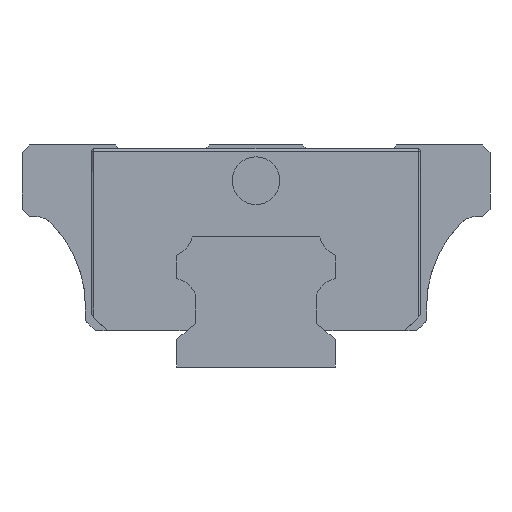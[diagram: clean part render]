
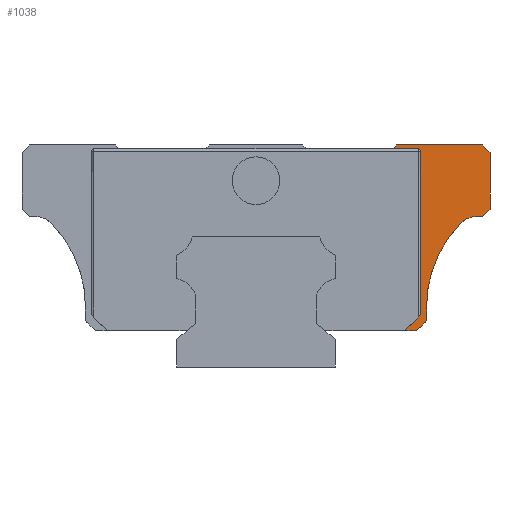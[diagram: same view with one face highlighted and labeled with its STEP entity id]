
A CAD part, left-side view. The second image highlights one B-rep face of the part: STEP entity #1038.
In plain terms, the highlighted planar face has unit normal (-1, 0, 0).
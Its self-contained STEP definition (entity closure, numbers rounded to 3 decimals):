
#24 = VERTEX_POINT ( 'NONE', #2266 ) ;
#58 = VERTEX_POINT ( 'NONE', #6627 ) ;
#95 = VERTEX_POINT ( 'NONE', #4981 ) ;
#149 = VECTOR ( 'NONE', #7197, 1000. ) ;
#159 = VECTOR ( 'NONE', #5225, 1000. ) ;
#279 = EDGE_CURVE ( 'NONE', #95, #2350, #7122, .T. ) ;
#281 = CARTESIAN_POINT ( 'NONE',  ( -13.9, 0., 17.29 ) ) ;
#299 = DIRECTION ( 'NONE',  ( 0., -0.707, 0.707 ) ) ;
#314 = DIRECTION ( 'NONE',  ( 0., -1., 0. ) ) ;
#413 = EDGE_CURVE ( 'NONE', #1445, #2694, #1861, .T. ) ;
#609 = VERTEX_POINT ( 'NONE', #4194 ) ;
#621 = VECTOR ( 'NONE', #4163, 1000. ) ;
#734 = CARTESIAN_POINT ( 'NONE',  ( -13.9, -20.457, 27.5 ) ) ;
#827 = PLANE ( 'NONE',  #5853 ) ;
#928 = DIRECTION ( 'NONE',  ( 0., 0.707, 0.707 ) ) ;
#932 = ORIENTED_EDGE ( 'NONE', *, *, #1115, .T. ) ;
#973 = ORIENTED_EDGE ( 'NONE', *, *, #3090, .T. ) ;
#1038 = ADVANCED_FACE ( 'NONE', ( #1386 ), #827, .T. ) ;
#1115 = EDGE_CURVE ( 'NONE', #2694, #24, #4293, .T. ) ;
#1117 = VERTEX_POINT ( 'NONE', #5280 ) ;
#1300 = ORIENTED_EDGE ( 'NONE', *, *, #4142, .T. ) ;
#1336 = EDGE_CURVE ( 'NONE', #1117, #7265, #3633, .T. ) ;
#1337 = VECTOR ( 'NONE', #3750, 1000. ) ;
#1380 = AXIS2_PLACEMENT_3D ( 'NONE', #4934, #4972, #7204 ) ;
#1386 = FACE_OUTER_BOUND ( 'NONE', #2288, .T. ) ;
#1445 = VERTEX_POINT ( 'NONE', #6404 ) ;
#1587 = DIRECTION ( 'NONE',  ( 0., 1., 0. ) ) ;
#1663 = VERTEX_POINT ( 'NONE', #2740 ) ;
#1679 = ORIENTED_EDGE ( 'NONE', *, *, #3875, .T. ) ;
#1712 = VECTOR ( 'NONE', #6540, 1000. ) ;
#1754 = DIRECTION ( 'NONE',  ( 1., 0., 0. ) ) ;
#1861 = CIRCLE ( 'NONE', #1380, 3. ) ;
#1865 = CARTESIAN_POINT ( 'NONE',  ( -13.9, -21.5, 7.6 ) ) ;
#1885 = LINE ( 'NONE', #2963, #159 ) ;
#1967 = CARTESIAN_POINT ( 'NONE',  ( -13.9, -27.93, 19. ) ) ;
#2133 = DIRECTION ( 'NONE',  ( 0., 0., 1. ) ) ;
#2220 = CARTESIAN_POINT ( 'NONE',  ( -13.9, -29.5, 28. ) ) ;
#2266 = CARTESIAN_POINT ( 'NONE',  ( -13.9, -28.6, 19. ) ) ;
#2288 = EDGE_LOOP ( 'NONE', ( #1679, #5390, #5951, #4548, #1300, #6241, #7227, #3523, #6189, #7008, #4180, #6795, #932, #973, #3412 ) ) ;
#2350 = VERTEX_POINT ( 'NONE', #6584 ) ;
#2388 = CIRCLE ( 'NONE', #3783, 0.295 ) ;
#2513 = CARTESIAN_POINT ( 'NONE',  ( -13.9, -20.542, 27.5 ) ) ;
#2635 = EDGE_CURVE ( 'NONE', #95, #1117, #5341, .T. ) ;
#2694 = VERTEX_POINT ( 'NONE', #1967 ) ;
#2740 = CARTESIAN_POINT ( 'NONE',  ( -13.9, -17.7, 28. ) ) ;
#2897 = EDGE_CURVE ( 'NONE', #1663, #4661, #1885, .T. ) ;
#2941 = VECTOR ( 'NONE', #314, 1000. ) ;
#2963 = CARTESIAN_POINT ( 'NONE',  ( -13.9, -17.7, 28. ) ) ;
#3053 = LINE ( 'NONE', #7097, #3953 ) ;
#3070 = CARTESIAN_POINT ( 'NONE',  ( -13.9, -10.439, 4.6 ) ) ;
#3076 = VECTOR ( 'NONE', #928, 1000. ) ;
#3083 = DIRECTION ( 'NONE',  ( 0., 0., 1. ) ) ;
#3090 = EDGE_CURVE ( 'NONE', #24, #609, #3716, .T. ) ;
#3170 = CARTESIAN_POINT ( 'NONE',  ( -13.9, -29.5, 19.9 ) ) ;
#3247 = LINE ( 'NONE', #2220, #6018 ) ;
#3412 = ORIENTED_EDGE ( 'NONE', *, *, #4613, .T. ) ;
#3523 = ORIENTED_EDGE ( 'NONE', *, *, #2635, .T. ) ;
#3595 = DIRECTION ( 'NONE',  ( 0., 0., 1. ) ) ;
#3629 = DIRECTION ( 'NONE',  ( -1., 0., 0. ) ) ;
#3633 = LINE ( 'NONE', #5284, #4458 ) ;
#3716 = LINE ( 'NONE', #3170, #1337 ) ;
#3718 = LINE ( 'NONE', #5367, #621 ) ;
#3721 = CARTESIAN_POINT ( 'NONE',  ( -13.9, -18.746, 4.6 ) ) ;
#3750 = DIRECTION ( 'NONE',  ( 0., -0.707, 0.707 ) ) ;
#3783 = AXIS2_PLACEMENT_3D ( 'NONE', #6368, #1754, #5234 ) ;
#3875 = EDGE_CURVE ( 'NONE', #5874, #58, #4317, .T. ) ;
#3953 = VECTOR ( 'NONE', #3595, 1000. ) ;
#4132 = VERTEX_POINT ( 'NONE', #1865 ) ;
#4142 = EDGE_CURVE ( 'NONE', #4481, #7039, #2388, .T. ) ;
#4163 = DIRECTION ( 'NONE',  ( 0., 0., 1. ) ) ;
#4180 = ORIENTED_EDGE ( 'NONE', *, *, #6809, .T. ) ;
#4194 = CARTESIAN_POINT ( 'NONE',  ( -13.9, -29.5, 19.9 ) ) ;
#4205 = VECTOR ( 'NONE', #299, 1000. ) ;
#4293 = LINE ( 'NONE', #5907, #2941 ) ;
#4317 = LINE ( 'NONE', #4764, #3076 ) ;
#4458 = VECTOR ( 'NONE', #5394, 1000. ) ;
#4481 = VERTEX_POINT ( 'NONE', #734 ) ;
#4548 = ORIENTED_EDGE ( 'NONE', *, *, #6310, .F. ) ;
#4613 = EDGE_CURVE ( 'NONE', #609, #5874, #3718, .T. ) ;
#4619 = VECTOR ( 'NONE', #6438, 1000. ) ;
#4661 = VERTEX_POINT ( 'NONE', #5846 ) ;
#4764 = CARTESIAN_POINT ( 'NONE',  ( -13.9, -28.55, 28. ) ) ;
#4774 = EDGE_CURVE ( 'NONE', #7265, #4132, #7234, .T. ) ;
#4775 = EDGE_CURVE ( 'NONE', #58, #1663, #3247, .T. ) ;
#4934 = CARTESIAN_POINT ( 'NONE',  ( -13.9, -27.93, 16. ) ) ;
#4972 = DIRECTION ( 'NONE',  ( 1., 0., 0. ) ) ;
#4981 = CARTESIAN_POINT ( 'NONE',  ( -13.9, -18.746, 4.6 ) ) ;
#5212 = CARTESIAN_POINT ( 'NONE',  ( -13.9, -20.752, 27.205 ) ) ;
#5225 = DIRECTION ( 'NONE',  ( 0., 0.643, -0.766 ) ) ;
#5234 = DIRECTION ( 'NONE',  ( 0., 0., 1. ) ) ;
#5280 = CARTESIAN_POINT ( 'NONE',  ( -13.9, -20.25, 4.6 ) ) ;
#5284 = CARTESIAN_POINT ( 'NONE',  ( -13.9, -21.5, 5.85 ) ) ;
#5341 = LINE ( 'NONE', #3070, #4619 ) ;
#5367 = CARTESIAN_POINT ( 'NONE',  ( -13.9, -29.5, 19. ) ) ;
#5390 = ORIENTED_EDGE ( 'NONE', *, *, #4775, .T. ) ;
#5394 = DIRECTION ( 'NONE',  ( 0., -0.707, 0.707 ) ) ;
#5846 = CARTESIAN_POINT ( 'NONE',  ( -13.9, -17.28, 27.5 ) ) ;
#5853 = AXIS2_PLACEMENT_3D ( 'NONE', #281, #3629, #3083 ) ;
#5874 = VERTEX_POINT ( 'NONE', #6514 ) ;
#5907 = CARTESIAN_POINT ( 'NONE',  ( -13.9, -28.6, 19. ) ) ;
#5951 = ORIENTED_EDGE ( 'NONE', *, *, #2897, .T. ) ;
#6018 = VECTOR ( 'NONE', #1587, 1000. ) ;
#6139 = CARTESIAN_POINT ( 'NONE',  ( -13.9, -36.5, 7.6 ) ) ;
#6183 = DIRECTION ( 'NONE',  ( 1., 0., 0. ) ) ;
#6189 = ORIENTED_EDGE ( 'NONE', *, *, #1336, .T. ) ;
#6241 = ORIENTED_EDGE ( 'NONE', *, *, #7049, .F. ) ;
#6272 = CARTESIAN_POINT ( 'NONE',  ( -13.9, -21.5, 5.85 ) ) ;
#6310 = EDGE_CURVE ( 'NONE', #4481, #4661, #7085, .T. ) ;
#6368 = CARTESIAN_POINT ( 'NONE',  ( -13.9, -20.457, 27.205 ) ) ;
#6402 = CIRCLE ( 'NONE', #6510, 15. ) ;
#6404 = CARTESIAN_POINT ( 'NONE',  ( -13.9, -25.788, 18.1 ) ) ;
#6438 = DIRECTION ( 'NONE',  ( 0., -1., 0. ) ) ;
#6510 = AXIS2_PLACEMENT_3D ( 'NONE', #6139, #6183, #2133 ) ;
#6514 = CARTESIAN_POINT ( 'NONE',  ( -13.9, -29.5, 27.05 ) ) ;
#6540 = DIRECTION ( 'NONE',  ( 0., 1., 0. ) ) ;
#6571 = CARTESIAN_POINT ( 'NONE',  ( -13.9, -21.5, 7.6 ) ) ;
#6584 = CARTESIAN_POINT ( 'NONE',  ( -13.9, -20.752, 6.605 ) ) ;
#6627 = CARTESIAN_POINT ( 'NONE',  ( -13.9, -28.55, 28. ) ) ;
#6795 = ORIENTED_EDGE ( 'NONE', *, *, #413, .T. ) ;
#6809 = EDGE_CURVE ( 'NONE', #4132, #1445, #6402, .T. ) ;
#7008 = ORIENTED_EDGE ( 'NONE', *, *, #4774, .T. ) ;
#7039 = VERTEX_POINT ( 'NONE', #5212 ) ;
#7049 = EDGE_CURVE ( 'NONE', #2350, #7039, #3053, .T. ) ;
#7085 = LINE ( 'NONE', #2513, #1712 ) ;
#7097 = CARTESIAN_POINT ( 'NONE',  ( -13.9, -20.752, 6.6 ) ) ;
#7122 = LINE ( 'NONE', #3721, #4205 ) ;
#7197 = DIRECTION ( 'NONE',  ( 0., 0., 1. ) ) ;
#7204 = DIRECTION ( 'NONE',  ( 0., 0., 1. ) ) ;
#7227 = ORIENTED_EDGE ( 'NONE', *, *, #279, .F. ) ;
#7234 = LINE ( 'NONE', #6571, #149 ) ;
#7265 = VERTEX_POINT ( 'NONE', #6272 ) ;
